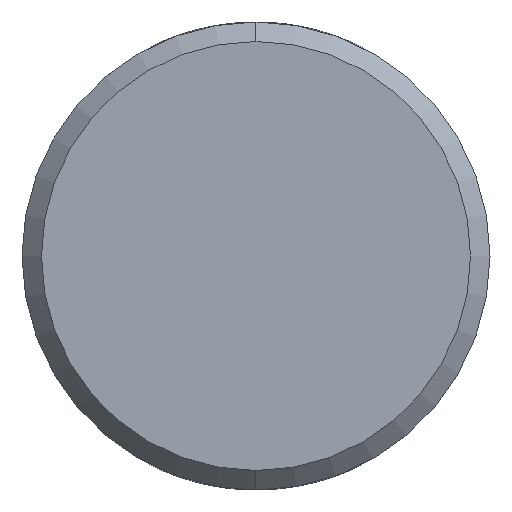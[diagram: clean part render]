
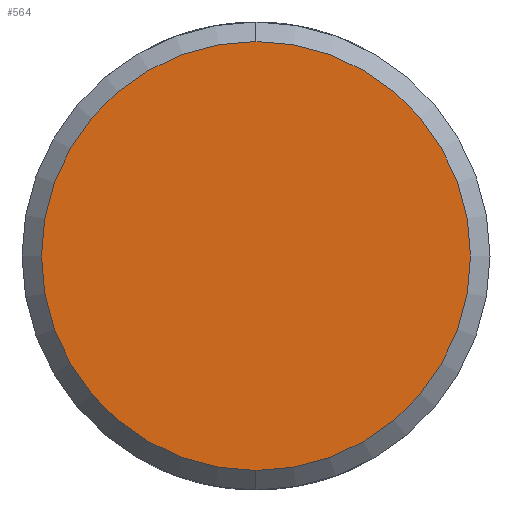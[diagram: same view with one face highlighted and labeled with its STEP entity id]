
A CAD part, left-side view. The second image highlights one B-rep face of the part: STEP entity #564.
In plain terms, the highlighted planar face has unit normal (-1, 0, 0).
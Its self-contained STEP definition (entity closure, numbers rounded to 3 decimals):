
#47 = DIRECTION ( 'NONE',  ( 1., 0., 0. ) ) ;
#52 = EDGE_LOOP ( 'NONE', ( #80, #769 ) ) ;
#80 = ORIENTED_EDGE ( 'NONE', *, *, #988, .T. ) ;
#152 = FACE_OUTER_BOUND ( 'NONE', #52, .T. ) ;
#200 = DIRECTION ( 'NONE',  ( 0., 0., -1. ) ) ;
#217 = CIRCLE ( 'NONE', #299, 5.5 ) ;
#245 = DIRECTION ( 'NONE',  ( 0., 0., -1. ) ) ;
#251 = DIRECTION ( 'NONE',  ( -1., 0., 0. ) ) ;
#288 = DIRECTION ( 'NONE',  ( -1., 0., 0. ) ) ;
#299 = AXIS2_PLACEMENT_3D ( 'NONE', #860, #251, #245 ) ;
#363 = CARTESIAN_POINT ( 'NONE',  ( -67., 0., 0. ) ) ;
#425 = PLANE ( 'NONE',  #581 ) ;
#516 = VERTEX_POINT ( 'NONE', #714 ) ;
#564 = ADVANCED_FACE ( 'NONE', ( #152 ), #425, .F. ) ;
#581 = AXIS2_PLACEMENT_3D ( 'NONE', #959, #47, #200 ) ;
#704 = AXIS2_PLACEMENT_3D ( 'NONE', #363, #288, #832 ) ;
#714 = CARTESIAN_POINT ( 'NONE',  ( -67., 0., 5.5 ) ) ;
#752 = CARTESIAN_POINT ( 'NONE',  ( -67., 0., -5.5 ) ) ;
#762 = VERTEX_POINT ( 'NONE', #752 ) ;
#769 = ORIENTED_EDGE ( 'NONE', *, *, #865, .T. ) ;
#795 = CIRCLE ( 'NONE', #704, 5.5 ) ;
#832 = DIRECTION ( 'NONE',  ( 0., 0., -1. ) ) ;
#860 = CARTESIAN_POINT ( 'NONE',  ( -67., 0., 0. ) ) ;
#865 = EDGE_CURVE ( 'NONE', #516, #762, #795, .T. ) ;
#959 = CARTESIAN_POINT ( 'NONE',  ( -67., 0., 0. ) ) ;
#988 = EDGE_CURVE ( 'NONE', #762, #516, #217, .T. ) ;
